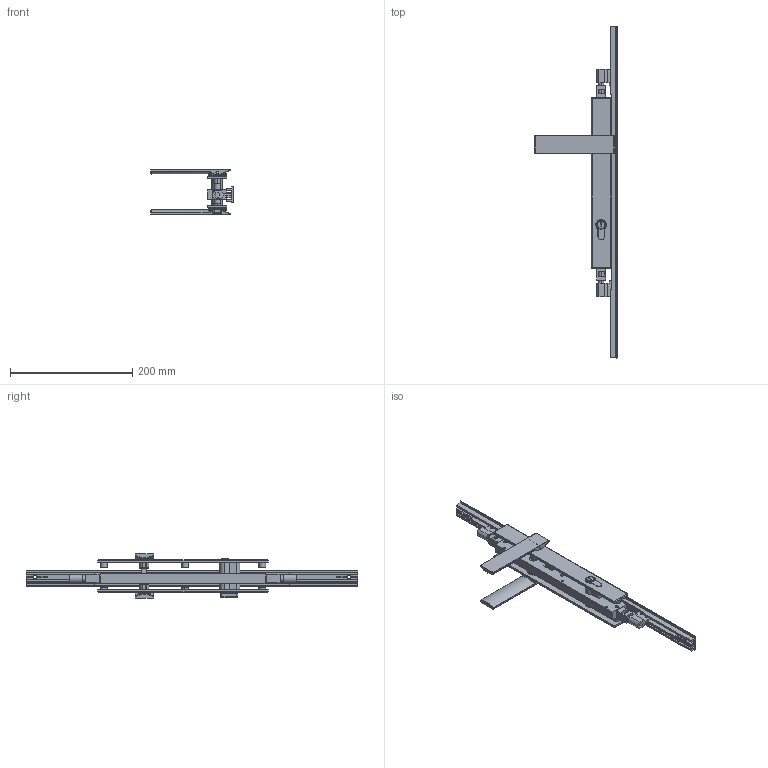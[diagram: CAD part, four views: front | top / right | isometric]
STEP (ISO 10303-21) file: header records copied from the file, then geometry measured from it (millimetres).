
FILE_DESCRIPTION (( 'STEP AP214' ), '1' );
FILE_NAME ('TPL-W-504-U 19July2024.STEP', '2024-12-04T23:59:17', ( '' ), ( '' ), 'SwSTEP 2.0', 'SolidWorks 2023', '' );
FILE_SCHEMA (( 'AUTOMOTIVE_DESIGN' ));
Length unit declared in the file: millimetre
Products named in the file (21): Copy of TPLGen2 lock body keyed assembly^TPL-W-004 19July2024_Bolts retracted; Copy of Copy of LKC-531 Lock twinpoint transmission rod wood system^TPL-W-004 19July2024_Standard Range 2891.7mm; Copy of TPLGen2 push rod - simplified^Copy of TPLGen2 lock body keyed assembly_TPL-W-004 19July2024_Female thread M10; Copy of Adapter DnF - simplfied^TPL-W-004 19July2024_26mm backset; Copy of TPL-019 Lock cylinder suit 1.75 inch panel^TPL-W-004 19July2024; Copy of Adapter CnE - simplfied^TPL-W-004 19July2024_26mm backset; Copy of COV-112-C Cover C TPLGen2 Lock body^TPL-W-004 19July2024; Copy of Handle sub-assembly - simplified^Copy of TPGen2 handle keyed external - simplified_TPL-W-004 19July2024; Bolt.step; Copy of LKC-547 Spindle - simplified^Copy of TPGen2 handle keyed external - simplified_TPL-W-004 19July2024_E - 19mm; Copy of TPGen2 handle keyed internal - simplified^TPL-W-004 19July2024_Right; Copy of TPLGen2 lock body keyed^Copy of TPLGen2 lock body keyed assembly_TPL-W-004 19July2024; Copy of COV-112-B Cover B suit TPLGen2 standard range^TPL-W-004 19July2024_2870mm; Copy of LKC-547 Spindle - simplified^Copy of TPGen2 handle keyed internal - simplified_TPL-W-004 19July2024_A - 11mm; Copy of TPGen2 handle keyed external - simplified^TPL-W-004 19July2024_Left; Copy of COV-112-A Cover A suit TPLGen2 standard range^TPL-W-004 19July2024_1335mm; Copy of LKC-531 Lock twinpoint transmission rod wood system^TPL-W-004 19July2024_Standard Range (588.7mm); Copy of Escutcheon plate keyed external 280mm - simplified^Copy of TPGen2 handle keyed external - simplified_TPL-W-004 19July2024; Copy of Escutcheon plate keyed internal 280mm - simplified^Copy of TPGen2 handle keyed internal - simplified_TPL-W-004 19July2024; Copy of Handle sub-assembly - simplified^Copy of TPGen2 handle keyed internal - simplified_TPL-W-004 19July2024; TPL-W-504-U 19July2024
Assembly tree (18 placements, depth 3):
  Bolt.step
  Copy of COV-112-B Cover B suit TPLGen2 standard range^TPL-W-004 19July2024_2870mm
  Copy of COV-112-A Cover A suit TPLGen2 standard range^TPL-W-004 19July2024_1335mm
  TPL-W-504-U 19July2024
    Copy of TPLGen2 lock body keyed assembly^TPL-W-004 19July2024_Bolts retracted
      Copy of TPLGen2 lock body keyed^Copy of TPLGen2 lock body keyed assembly_TPL-W-004 19July2024
      Copy of TPLGen2 push rod - simplified^Copy of TPLGen2 lock body keyed assembly_TPL-W-004 19July2024_Female thread M10  x2
    Copy of TPGen2 handle keyed internal - simplified^TPL-W-004 19July2024_Right
      Copy of Escutcheon plate keyed internal 280mm - simplified^Copy of TPGen2 handle keyed internal - simplified_TPL-W-004 19July2024
      Copy of Handle sub-assembly - simplified^Copy of TPGen2 handle keyed internal - simplified_TPL-W-004 19July2024
      Copy of LKC-547 Spindle - simplified^Copy of TPGen2 handle keyed internal - simplified_TPL-W-004 19July2024_A - 11mm
    Copy of TPGen2 handle keyed external - simplified^TPL-W-004 19July2024_Left
      Copy of Escutcheon plate keyed external 280mm - simplified^Copy of TPGen2 handle keyed external - simplified_TPL-W-004 19July2024
      Copy of Handle sub-assembly - simplified^Copy of TPGen2 handle keyed external - simplified_TPL-W-004 19July2024
      Copy of LKC-547 Spindle - simplified^Copy of TPGen2 handle keyed external - simplified_TPL-W-004 19July2024_E - 19mm
    Copy of TPL-019 Lock cylinder suit 1.75 inch panel^TPL-W-004 19July2024
    Copy of COV-112-C Cover C TPLGen2 Lock body^TPL-W-004 19July2024
    Copy of Copy of LKC-531 Lock twinpoint transmission rod wood system^TPL-W-004 19July2024_Standard Range 2891.7mm
    Copy of LKC-531 Lock twinpoint transmission rod wood system^TPL-W-004 19July2024_Standard Range (588.7mm)
    Copy of Adapter CnE - simplfied^TPL-W-004 19July2024_26mm backset
    Copy of Adapter DnF - simplfied^TPL-W-004 19July2024_26mm backset
Bounding box: 134.5 x 544 x 73.59 mm (x, y, z)
Volume: 357083 mm3; surface area: 177005.4 mm2
Topology: 17 solids, 20 shells, 1091 faces, 2768 edges, 1729 vertices
Faces by surface type: cylinder 453, plane 422, bspline 89, torus 68, cone 35, sphere 24
Entity records: 33431 total; most frequent: CARTESIAN_POINT 7281, DIRECTION 5484, ORIENTED_EDGE 5284, EDGE_CURVE 2642, AXIS2_PLACEMENT_3D 2056, VERTEX_POINT 1669, VECTOR 1372, LINE 1372
